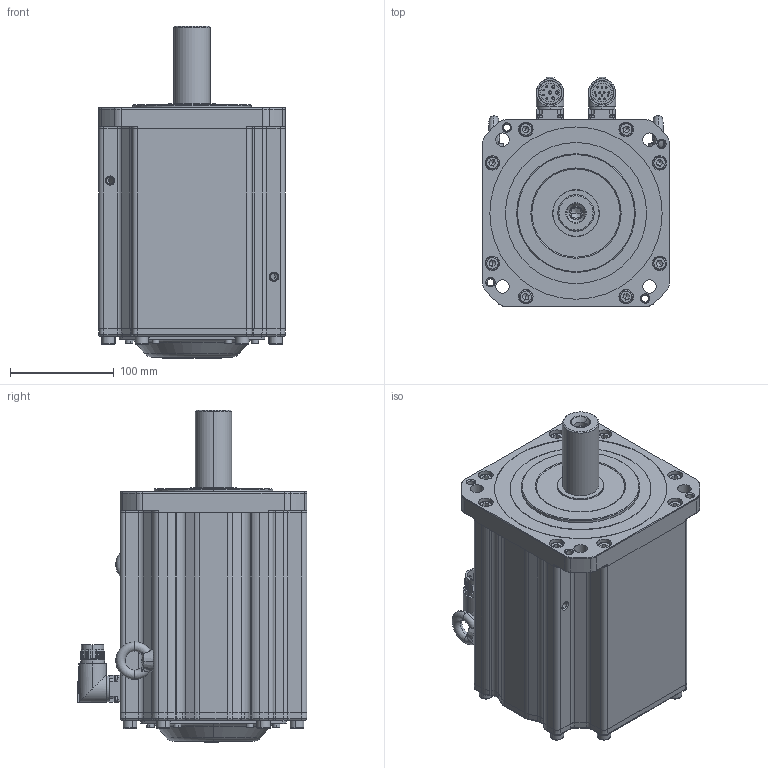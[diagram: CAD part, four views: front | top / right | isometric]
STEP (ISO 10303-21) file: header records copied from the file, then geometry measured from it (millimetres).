
FILE_DESCRIPTION (( 'STEP AP203' ), '1' );
FILE_NAME ('MC20-180-3M15-N442-1¡õPL-NNNN.STEP', '2025-07-30T13:21:48', ( '' ), ( '' ), 'SwSTEP 2.0', 'SolidWorks 2014', '' );
FILE_SCHEMA (( 'CONFIG_CONTROL_DESIGN' ));
Products named in the file (1): MC20-180-3M15-N442-1¡õPL-NNNN
Bounding box: 180 x 221.35 x 319.95 mm (x, y, z)
Volume: 8423577.5 mm3; surface area: 514090.6 mm2
Topology: 40 solids, 42 shells, 2194 faces, 5079 edges, 3029 vertices
Faces by surface type: plane 879, cylinder 578, cone 482, torus 208, bspline 47
Entity records: 64156 total; most frequent: CARTESIAN_POINT 14091, DIRECTION 10995, ORIENTED_EDGE 9938, EDGE_CURVE 4969, AXIS2_PLACEMENT_3D 4263, VERTEX_POINT 3029, VECTOR 2469, LINE 2469
